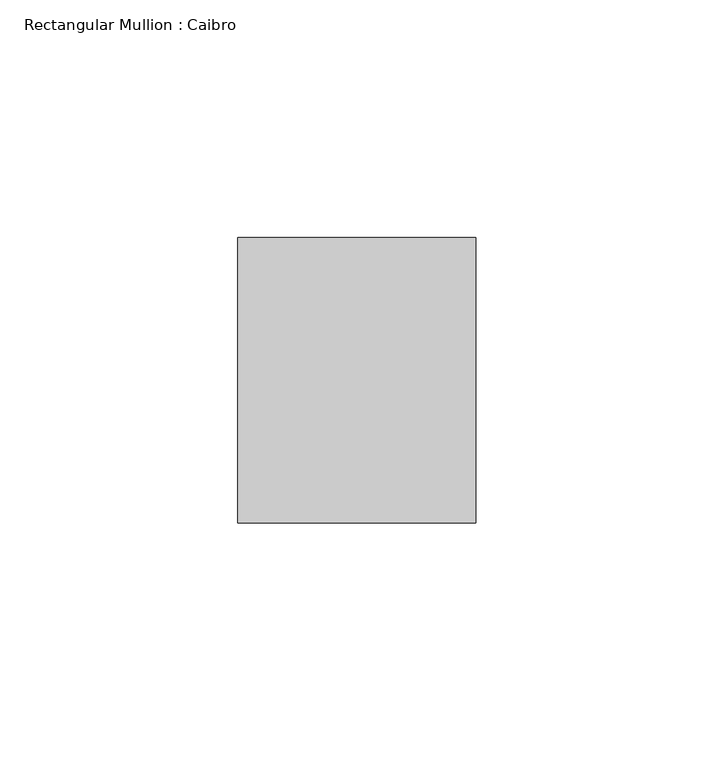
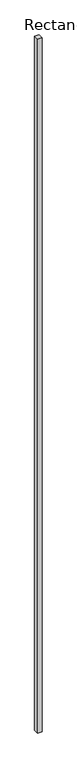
"""IFC4 building model written with IfcOpenShell, lengths in millimetres: member geometry, Rectangular Mullion : Caibro."""

from ifc_helpers import new_model, si_unit, frame, origin, place, context, project, spatial, polyline, outline, extrude, source, transform, mapped, element, save


def rectangular_mullion_caibro_ed0dafb1(model_context):
    return source(origin(), model_context, "Body", "SweptSolid", [
        extrude(outline(polyline([(0.0, -60.0), (-50.0, -60.0), (-50.0, 0.0), (0.0, 0.0), (0.0, -60.0)])), frame((0.0, 0.0, -8322.2452071), z_axis=(0.0, 0.0, 1.0), x_axis=(1.0, 0.0, 0.0)), (0.0, 0.0, 1.0), 8322.2452071),
    ])


if __name__ == "__main__":
    model = new_model("IFC4")
    model_context = context("Model", 3, world=origin())
    ifc_project = project(units=[si_unit("LENGTHUNIT", "METRE", prefix="MILLI")], contexts=[model_context])
    site = spatial("IfcSite", under=ifc_project)
    building = spatial("IfcBuilding", under=site)
    placement = place(None, origin())
    rectangular_mullion_caibro_shape = rectangular_mullion_caibro_ed0dafb1(model_context)
    element("IfcMember", 1, ObjectType="Rectangular Mullion : Caibro", at=placement, inside=building, context=model_context, shape_type="MappedRepresentation", body=[
        mapped(rectangular_mullion_caibro_shape, transform((0.0, 0.0, 0.0), x_axis=(1.0, 0.0, 0.0), y_axis=(0.0, 1.0, 0.0), z_axis=(0.0, 0.0, 1.0))),
    ])
    save(model, "model.ifc")
